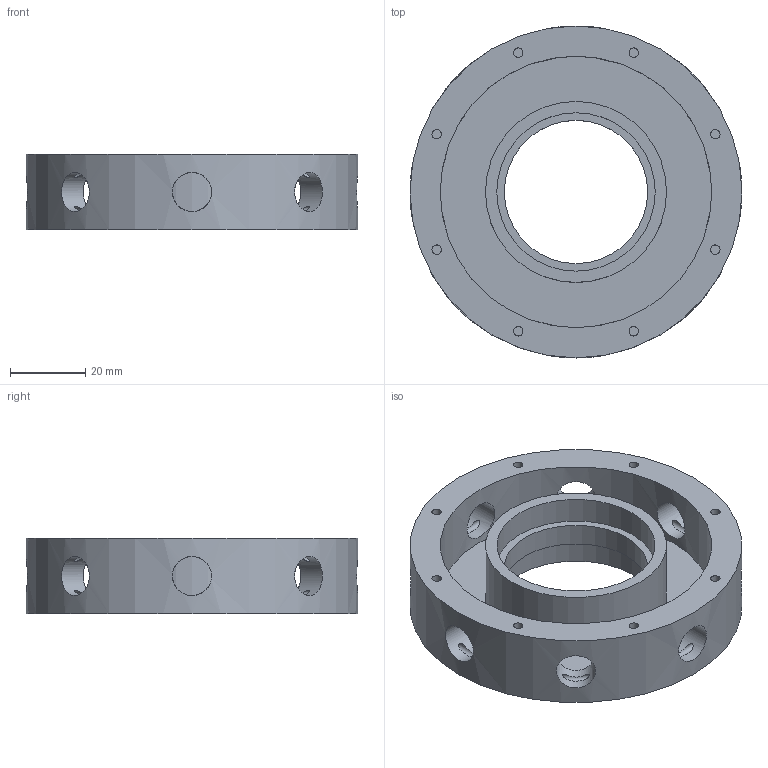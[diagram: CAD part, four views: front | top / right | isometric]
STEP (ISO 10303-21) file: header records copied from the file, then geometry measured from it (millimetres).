
FILE_DESCRIPTION(('FreeCAD Model'),'2;1');
FILE_NAME('Open CASCADE Shape Model','2026-10-30T15:50:42',('FreeCAD'),( 'FreeCAD'),'Open CASCADE STEP processor 7.8','FreeCAD','Unknown');
FILE_SCHEMA(('AUTOMOTIVE_DESIGN { 1 0 10303 214 1 1 1 1 }'));
Length unit declared in the file: millimetre
Products named in the file (1): Open CASCADE STEP translator 7.8 2
Bounding box: 88 x 88 x 20 mm (x, y, z)
Volume: 50498.6 mm3; surface area: 26976.3 mm2
Topology: 1 solids, 1 shells, 84 faces, 166 edges, 110 vertices
Faces by surface type: plane 46, cylinder 38
Full cylindrical faces by diameter (mm): 2 x16, 2.5 x8, 10.4 x8, 38 x1, 42 x2, 48 x1, 72 x1, 88 x1
Entity records: 6563 total; most frequent: CARTESIAN_POINT 4810, DIRECTION 343, ORIENTED_EDGE 332, EDGE_CURVE 166, AXIS2_PLACEMENT_3D 145, FACE_BOUND 128, EDGE_LOOP 128, VERTEX_POINT 110
